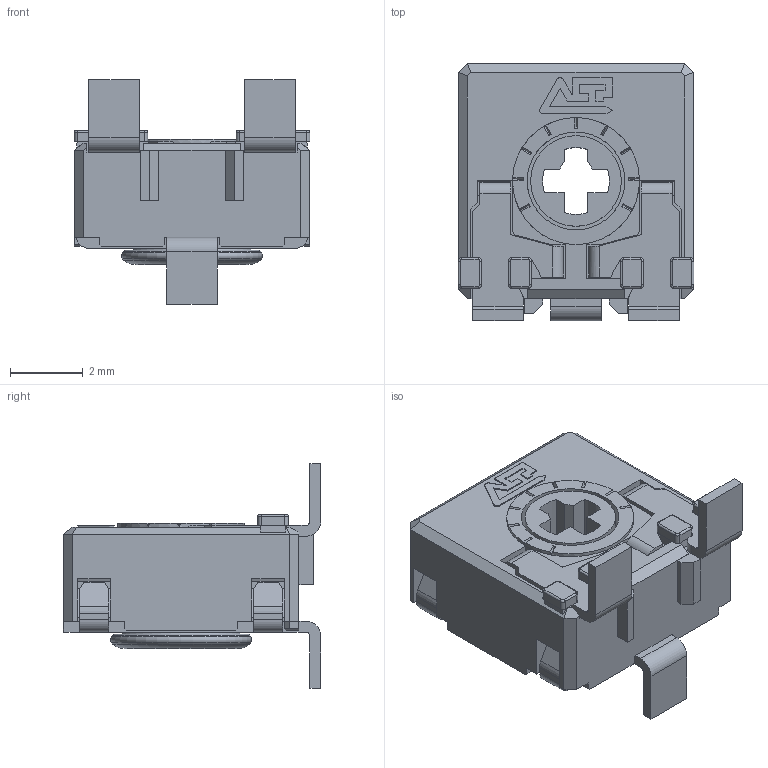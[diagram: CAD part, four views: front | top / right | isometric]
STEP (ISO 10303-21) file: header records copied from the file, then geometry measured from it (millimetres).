
FILE_DESCRIPTION(/* description */ (''),/* implementation_level */ '2;1');
FILE_NAME(/* name */ '\\SERVERACP\intercambio\Ignacio Santa Cecilia\Nueva WEB 2025\CA6\CA6XHSMD.stp',/* time_stamp */ '2025-06-05T12:25:40+02:00',/* author */ ('CEM'),/* organization */ (''),/* preprocessor_version */ 'ST-DEVELOPER v17',/* originating_system */ 'Autodesk Inventor 2018',/* authorisation */ '');
FILE_SCHEMA (('AUTOMOTIVE_DESIGN { 1 0 10303 214 3 1 1 }'));
Length unit declared in the file: millimetre
Products named in the file (1): CARCASA CA6
Bounding box: 6.5 x 7.1 x 6.2 mm (x, y, z)
Volume: 88.5 mm3; surface area: 368.9 mm2
Topology: 1 solids, 1 shells, 512 faces, 1439 edges, 925 vertices
Faces by surface type: plane 389, cylinder 84, cone 17, bspline 16, torus 6
Full cylindrical faces by diameter (mm): 2.5 x1, 2.7 x1, 2.9 x1, 3.1 x1, 3.5 x1
Entity records: 16577 total; most frequent: CARTESIAN_POINT 3061, ORIENTED_EDGE 2878, DIRECTION 2683, EDGE_CURVE 1439, LINE 1133, VECTOR 1133, VERTEX_POINT 925, AXIS2_PLACEMENT_3D 775
